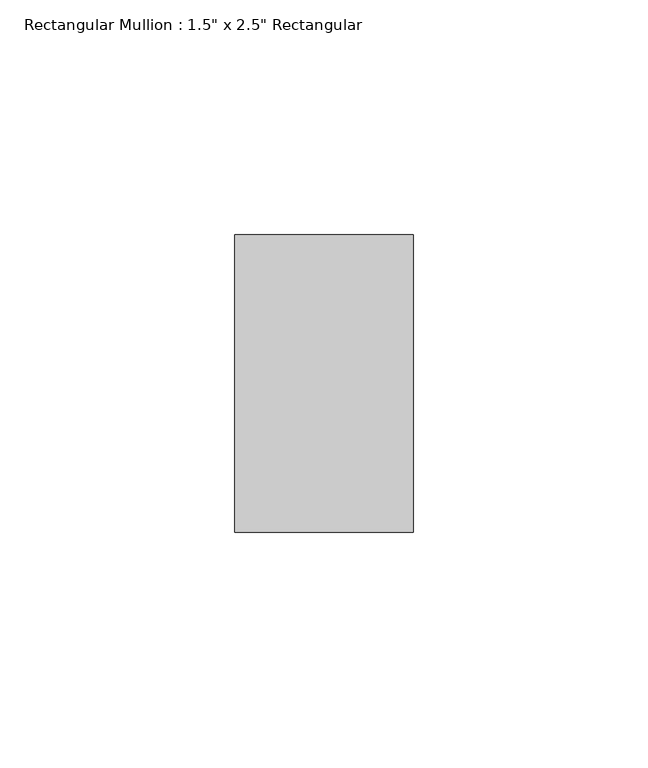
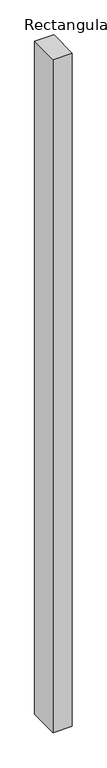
"""IFC4 building model written with IfcOpenShell, lengths in millimetres: member geometry."""

from ifc_helpers import new_model, si_unit, frame, origin, place, context, project, spatial, polyline, outline, extrude, source, transform, mapped, element, save


def member_9574b3de(model_context):
    return source(origin(), model_context, "Body", "SweptSolid", [
        extrude(outline(polyline([(0.0, 31.75), (0.0, -31.75), (-38.1, -31.75), (-38.1, 31.75), (0.0, 31.75)])), frame((0.0, 0.0, -1419.225), z_axis=(0.0, 0.0, 1.0), x_axis=(1.0, 0.0, 0.0)), (0.0, 0.0, 1.0), 1419.225),
    ])


if __name__ == "__main__":
    model = new_model("IFC4")
    model_context = context("Model", 3, world=origin())
    ifc_project = project(units=[si_unit("LENGTHUNIT", "METRE", prefix="MILLI")], contexts=[model_context])
    site = spatial("IfcSite", under=ifc_project)
    building = spatial("IfcBuilding", under=site)
    placement = place(None, origin())
    member_shape = member_9574b3de(model_context)
    element("IfcMember", 1, ObjectType="Rectangular Mullion : 1.5\" x 2.5\" Rectangular", at=placement, inside=building, context=model_context, shape_type="MappedRepresentation", body=[
        mapped(member_shape, transform((0.0, 0.0, 0.0), x_axis=(1.0, 0.0, 0.0), y_axis=(0.0, 1.0, 0.0), z_axis=(0.0, 0.0, 1.0))),
    ])
    save(model, "model.ifc")
